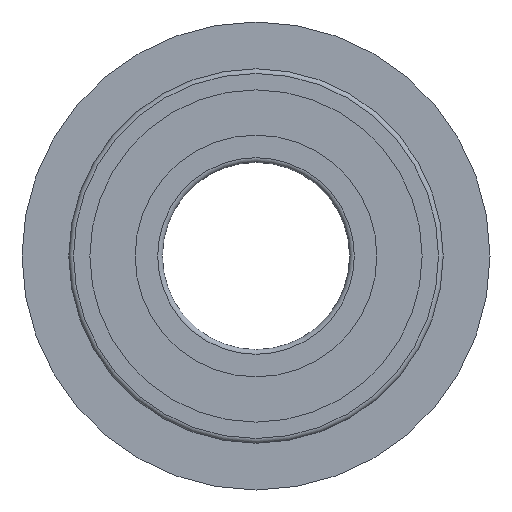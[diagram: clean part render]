
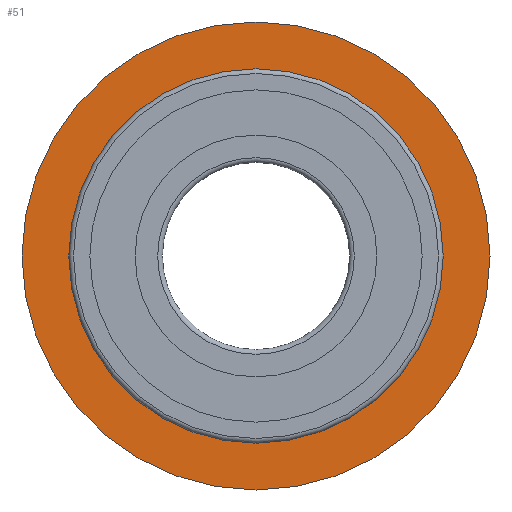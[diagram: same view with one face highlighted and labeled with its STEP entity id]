
A CAD part, left-side view. The second image highlights one B-rep face of the part: STEP entity #51.
In plain terms, the highlighted planar face has unit normal (-1, 0, 0).
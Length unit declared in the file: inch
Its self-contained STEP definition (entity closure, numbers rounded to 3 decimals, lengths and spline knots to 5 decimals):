
#24=CARTESIAN_POINT('',(113.41139,119.97152,0.));
#25=VERTEX_POINT('',#24);
#26=CARTESIAN_POINT('',(113.41139,112.47152,0.));
#27=DIRECTION('',(-1.,0.,0.));
#28=DIRECTION('',(0.,1.,0.));
#29=AXIS2_PLACEMENT_3D('',#26,#27,#28);
#30=CIRCLE('',#29,7.5);
#31=EDGE_CURVE('',#25,#25,#30,.T.);
#32=ORIENTED_EDGE('',*,*,#31,.T.);
#33=EDGE_LOOP('',(#32));
#34=FACE_OUTER_BOUND('',#33,.T.);
#35=CARTESIAN_POINT('',(113.41139,118.47152,0.));
#36=VERTEX_POINT('',#35);
#37=CARTESIAN_POINT('',(113.41139,112.47152,0.));
#38=DIRECTION('',(-1.,0.,0.));
#39=DIRECTION('',(0.,1.,0.));
#40=AXIS2_PLACEMENT_3D('',#37,#38,#39);
#41=CIRCLE('',#40,6.);
#42=EDGE_CURVE('',#36,#36,#41,.T.);
#43=ORIENTED_EDGE('',*,*,#42,.F.);
#44=EDGE_LOOP('',(#43));
#45=FACE_BOUND('',#44,.T.);
#46=CARTESIAN_POINT('',(113.41139,119.22152,0.));
#47=DIRECTION('',(-1.,0.,0.));
#48=DIRECTION('',(0.,1.,0.));
#49=AXIS2_PLACEMENT_3D('',#46,#47,#48);
#50=PLANE('',#49);
#51=ADVANCED_FACE('',(#34,#45),#50,.T.);
